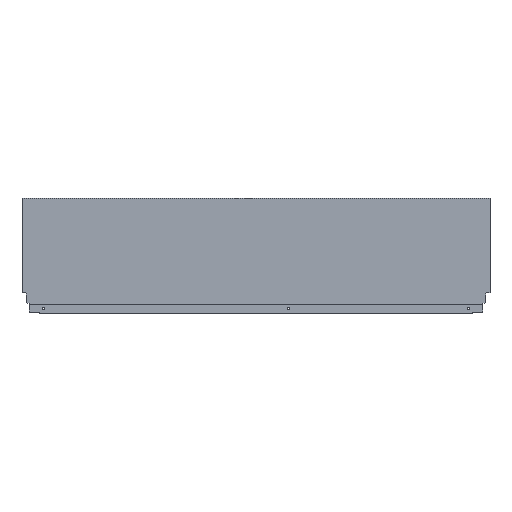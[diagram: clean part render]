
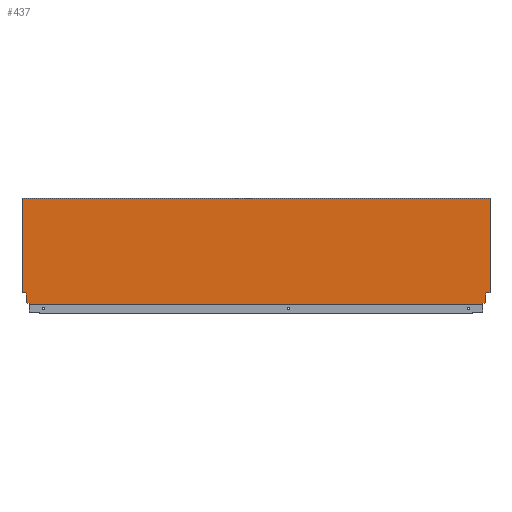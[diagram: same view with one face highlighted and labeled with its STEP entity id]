
A CAD part, top view. The second image highlights one B-rep face of the part: STEP entity #437.
In plain terms, the highlighted planar face has unit normal (0, 0, 1).
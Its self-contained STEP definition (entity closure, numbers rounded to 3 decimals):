
#38 = AXIS2_PLACEMENT_3D ( 'NONE', #554, #549, #548 ) ;
#118 = CARTESIAN_POINT ( 'NONE',  ( -13.004, 1.146, 7.5 ) ) ;
#120 = DIRECTION ( 'NONE',  ( 0., -1., 0. ) ) ;
#121 = CARTESIAN_POINT ( 'NONE',  ( -7.06, 21.2, 7.5 ) ) ;
#123 = DIRECTION ( 'NONE',  ( -0.174, -0.985, 0. ) ) ;
#126 = DIRECTION ( 'NONE',  ( -1., 0., 0. ) ) ;
#127 = CARTESIAN_POINT ( 'NONE',  ( -13.004, 0., 7.5 ) ) ;
#129 = CARTESIAN_POINT ( 'NONE',  ( 0., 21.2, 7.5 ) ) ;
#132 = DIRECTION ( 'NONE',  ( -0.94, -0.342, 0. ) ) ;
#133 = CARTESIAN_POINT ( 'NONE',  ( -8.9, 2.64, 7.5 ) ) ;
#140 = CARTESIAN_POINT ( 'NONE',  ( -867., 196.7, 7.5 ) ) ;
#149 = DIRECTION ( 'NONE',  ( 0., -1., 0. ) ) ;
#151 = DIRECTION ( 'NONE',  ( 1., 0., 0. ) ) ;
#159 = CARTESIAN_POINT ( 'NONE',  ( -858.1, 10.765, 7.5 ) ) ;
#162 = CARTESIAN_POINT ( 'NONE',  ( -8.9, 10.765, 7.5 ) ) ;
#164 = DIRECTION ( 'NONE',  ( 0., 1., 0. ) ) ;
#166 = DIRECTION ( 'NONE',  ( 0., -1., 0. ) ) ;
#168 = CARTESIAN_POINT ( 'NONE',  ( -867., 0., 7.5 ) ) ;
#169 = DIRECTION ( 'NONE',  ( -0.94, 0.342, 0. ) ) ;
#170 = CARTESIAN_POINT ( 'NONE',  ( -858.1, 2.64, 7.5 ) ) ;
#186 = CARTESIAN_POINT ( 'NONE',  ( -867., 0., 7.5 ) ) ;
#187 = DIRECTION ( 'NONE',  ( 1., 0., 0. ) ) ;
#191 = CARTESIAN_POINT ( 'NONE',  ( -872., 21.2, 7.5 ) ) ;
#192 = DIRECTION ( 'NONE',  ( -1., 0., 0. ) ) ;
#193 = CARTESIAN_POINT ( 'NONE',  ( -859.94, 21.2, 7.5 ) ) ;
#211 = CARTESIAN_POINT ( 'NONE',  ( -853.996, 1.146, 7.5 ) ) ;
#215 = DIRECTION ( 'NONE',  ( 0., 1., 0. ) ) ;
#303 = CARTESIAN_POINT ( 'NONE',  ( -859.94, 21.2, 7.5 ) ) ;
#304 = CARTESIAN_POINT ( 'NONE',  ( -858.1, 10.765, 7.5 ) ) ;
#310 = CARTESIAN_POINT ( 'NONE',  ( -867., 196.7, 7.5 ) ) ;
#312 = CARTESIAN_POINT ( 'NONE',  ( -858.1, 2.64, 7.5 ) ) ;
#313 = CARTESIAN_POINT ( 'NONE',  ( -853.996, 1.146, 7.5 ) ) ;
#324 = CARTESIAN_POINT ( 'NONE',  ( -867., 21.2, 7.5 ) ) ;
#344 = CARTESIAN_POINT ( 'NONE',  ( -13.004, 1.146, 7.5 ) ) ;
#345 = CARTESIAN_POINT ( 'NONE',  ( 0., 21.2, 7.5 ) ) ;
#347 = CARTESIAN_POINT ( 'NONE',  ( -7.06, 21.2, 7.5 ) ) ;
#348 = DIRECTION ( 'NONE',  ( 0., -1., 0. ) ) ;
#349 = DIRECTION ( 'NONE',  ( -0.174, 0.985, 0. ) ) ;
#350 = CARTESIAN_POINT ( 'NONE',  ( 0., 0., 7.5 ) ) ;
#353 = CARTESIAN_POINT ( 'NONE',  ( -853.996, 0., 7.5 ) ) ;
#356 = CARTESIAN_POINT ( 'NONE',  ( -8.9, 10.765, 7.5 ) ) ;
#365 = CARTESIAN_POINT ( 'NONE',  ( 0., 196.7, 7.5 ) ) ;
#373 = CARTESIAN_POINT ( 'NONE',  ( -8.9, 2.64, 7.5 ) ) ;
#437 = ADVANCED_FACE ( 'NONE', ( #1513 ), #553, .T. ) ;
#460 = EDGE_CURVE ( 'NONE', #578, #682, #1346, .T. ) ;
#462 = EDGE_CURVE ( 'NONE', #785, #836, #1492, .T. ) ;
#466 = EDGE_CURVE ( 'NONE', #578, #799, #1460, .T. ) ;
#468 = EDGE_CURVE ( 'NONE', #799, #801, #1475, .T. ) ;
#469 = EDGE_CURVE ( 'NONE', #782, #785, #1479, .T. ) ;
#470 = EDGE_CURVE ( 'NONE', #788, #836, #1481, .T. ) ;
#471 = EDGE_CURVE ( 'NONE', #801, #782, #1456, .T. ) ;
#472 = EDGE_CURVE ( 'NONE', #594, #651, #1454, .T. ) ;
#474 = EDGE_CURVE ( 'NONE', #745, #682, #1450, .T. ) ;
#475 = EDGE_CURVE ( 'NONE', #722, #594, #1448, .T. ) ;
#476 = EDGE_CURVE ( 'NONE', #651, #745, #1446, .T. ) ;
#477 = EDGE_CURVE ( 'NONE', #743, #722, #1444, .T. ) ;
#478 = EDGE_CURVE ( 'NONE', #625, #743, #1480, .T. ) ;
#479 = EDGE_CURVE ( 'NONE', #788, #625, #1440, .T. ) ;
#548 = DIRECTION ( 'NONE',  ( 1., 0., 0. ) ) ;
#549 = DIRECTION ( 'NONE',  ( 0., 0., 1. ) ) ;
#553 = PLANE ( 'NONE',  #38 ) ;
#554 = CARTESIAN_POINT ( 'NONE',  ( -867., 0., 7.5 ) ) ;
#578 = VERTEX_POINT ( 'NONE', #353 ) ;
#594 = VERTEX_POINT ( 'NONE', #356 ) ;
#625 = VERTEX_POINT ( 'NONE', #365 ) ;
#651 = VERTEX_POINT ( 'NONE', #373 ) ;
#682 = VERTEX_POINT ( 'NONE', #127 ) ;
#722 = VERTEX_POINT ( 'NONE', #347 ) ;
#743 = VERTEX_POINT ( 'NONE', #345 ) ;
#745 = VERTEX_POINT ( 'NONE', #344 ) ;
#782 = VERTEX_POINT ( 'NONE', #304 ) ;
#785 = VERTEX_POINT ( 'NONE', #303 ) ;
#788 = VERTEX_POINT ( 'NONE', #310 ) ;
#799 = VERTEX_POINT ( 'NONE', #313 ) ;
#801 = VERTEX_POINT ( 'NONE', #312 ) ;
#836 = VERTEX_POINT ( 'NONE', #324 ) ;
#937 = ORIENTED_EDGE ( 'NONE', *, *, #468, .F. ) ;
#951 = ORIENTED_EDGE ( 'NONE', *, *, #472, .F. ) ;
#962 = ORIENTED_EDGE ( 'NONE', *, *, #470, .T. ) ;
#963 = ORIENTED_EDGE ( 'NONE', *, *, #462, .F. ) ;
#964 = ORIENTED_EDGE ( 'NONE', *, *, #469, .F. ) ;
#965 = ORIENTED_EDGE ( 'NONE', *, *, #471, .F. ) ;
#974 = ORIENTED_EDGE ( 'NONE', *, *, #466, .F. ) ;
#975 = ORIENTED_EDGE ( 'NONE', *, *, #460, .T. ) ;
#1011 = ORIENTED_EDGE ( 'NONE', *, *, #475, .F. ) ;
#1015 = ORIENTED_EDGE ( 'NONE', *, *, #479, .F. ) ;
#1023 = ORIENTED_EDGE ( 'NONE', *, *, #478, .F. ) ;
#1058 = ORIENTED_EDGE ( 'NONE', *, *, #476, .F. ) ;
#1060 = ORIENTED_EDGE ( 'NONE', *, *, #474, .F. ) ;
#1062 = ORIENTED_EDGE ( 'NONE', *, *, #477, .F. ) ;
#1277 = EDGE_LOOP ( 'NONE', ( #962, #963, #964, #965, #937, #974, #975, #1060, #1058, #951, #1011, #1062, #1023, #1015 ) ) ;
#1346 = LINE ( 'NONE', #186, #1459 ) ;
#1439 = VECTOR ( 'NONE', #151, 1000. ) ;
#1440 = LINE ( 'NONE', #140, #1439 ) ;
#1442 = VECTOR ( 'NONE', #120, 1000. ) ;
#1443 = VECTOR ( 'NONE', #126, 1000. ) ;
#1444 = LINE ( 'NONE', #129, #1443 ) ;
#1445 = VECTOR ( 'NONE', #132, 1000. ) ;
#1446 = LINE ( 'NONE', #133, #1445 ) ;
#1447 = VECTOR ( 'NONE', #123, 1000. ) ;
#1448 = LINE ( 'NONE', #121, #1447 ) ;
#1449 = VECTOR ( 'NONE', #149, 1000. ) ;
#1450 = LINE ( 'NONE', #118, #1449 ) ;
#1453 = VECTOR ( 'NONE', #166, 1000. ) ;
#1454 = LINE ( 'NONE', #162, #1453 ) ;
#1455 = VECTOR ( 'NONE', #164, 1000. ) ;
#1456 = LINE ( 'NONE', #159, #1455 ) ;
#1459 = VECTOR ( 'NONE', #187, 1000. ) ;
#1460 = LINE ( 'NONE', #211, #1461 ) ;
#1461 = VECTOR ( 'NONE', #215, 1000. ) ;
#1471 = VECTOR ( 'NONE', #348, 1000. ) ;
#1473 = VECTOR ( 'NONE', #349, 1000. ) ;
#1474 = VECTOR ( 'NONE', #169, 1000. ) ;
#1475 = LINE ( 'NONE', #170, #1474 ) ;
#1479 = LINE ( 'NONE', #193, #1473 ) ;
#1480 = LINE ( 'NONE', #350, #1442 ) ;
#1481 = LINE ( 'NONE', #168, #1471 ) ;
#1484 = VECTOR ( 'NONE', #192, 1000. ) ;
#1492 = LINE ( 'NONE', #191, #1484 ) ;
#1513 = FACE_OUTER_BOUND ( 'NONE', #1277, .T. ) ;
